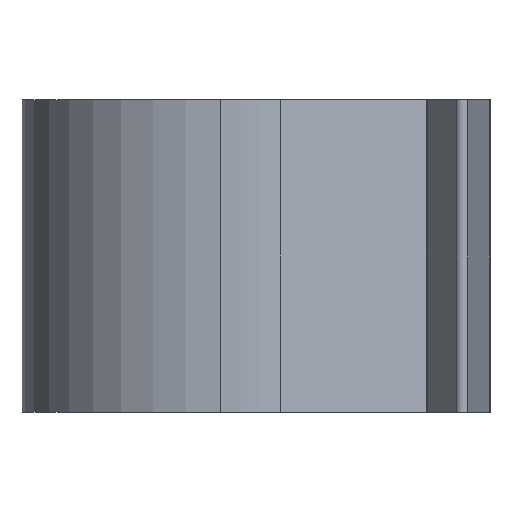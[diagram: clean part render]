
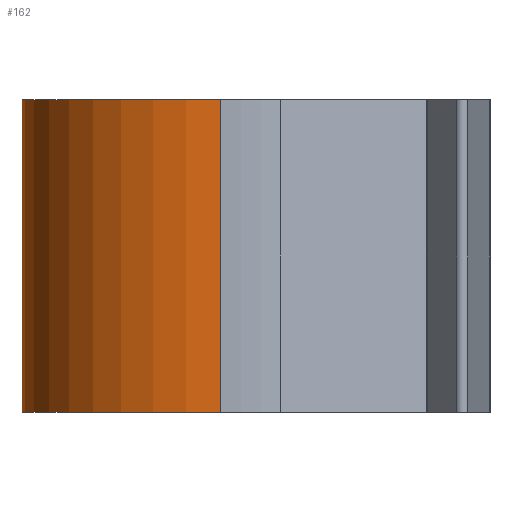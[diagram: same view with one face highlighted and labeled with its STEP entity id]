
A CAD part, left-side view. The second image highlights one B-rep face of the part: STEP entity #162.
In plain terms, the highlighted cylindrical face has radius 6.25 mm (diameter 12.5 mm), a partial arc.
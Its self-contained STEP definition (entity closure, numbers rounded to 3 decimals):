
#43 = VERTEX_POINT ( 'NONE', #799 ) ;
#47 = LINE ( 'NONE', #399, #836 ) ;
#75 = DIRECTION ( 'NONE',  ( 0., 0., 1. ) ) ;
#137 = DIRECTION ( 'NONE',  ( 1., 0., 0. ) ) ;
#162 = ADVANCED_FACE ( 'NONE', ( #891 ), #265, .T. ) ;
#227 = CARTESIAN_POINT ( 'NONE',  ( -6.25, 8.45, -4.9 ) ) ;
#251 = ORIENTED_EDGE ( 'NONE', *, *, #764, .F. ) ;
#265 = CYLINDRICAL_SURFACE ( 'NONE', #460, 6.25 ) ;
#282 = CARTESIAN_POINT ( 'NONE',  ( -6.25, 8.45, 4.9 ) ) ;
#325 = DIRECTION ( 'NONE',  ( 0., 0., -1. ) ) ;
#342 = EDGE_LOOP ( 'NONE', ( #868, #896, #510, #251 ) ) ;
#399 = CARTESIAN_POINT ( 'NONE',  ( -6.25, 8.45, 4.9 ) ) ;
#431 = AXIS2_PLACEMENT_3D ( 'NONE', #545, #75, #616 ) ;
#460 = AXIS2_PLACEMENT_3D ( 'NONE', #530, #890, #137 ) ;
#494 = CARTESIAN_POINT ( 'NONE',  ( 0., 8.45, 4.9 ) ) ;
#510 = ORIENTED_EDGE ( 'NONE', *, *, #925, .T. ) ;
#525 = VECTOR ( 'NONE', #783, 1000. ) ;
#530 = CARTESIAN_POINT ( 'NONE',  ( 0., 8.45, 4.9 ) ) ;
#545 = CARTESIAN_POINT ( 'NONE',  ( 0., 8.45, -4.9 ) ) ;
#554 = AXIS2_PLACEMENT_3D ( 'NONE', #494, #325, #853 ) ;
#569 = VERTEX_POINT ( 'NONE', #282 ) ;
#605 = CIRCLE ( 'NONE', #554, 6.25 ) ;
#616 = DIRECTION ( 'NONE',  ( 1., 0., 0. ) ) ;
#628 = CIRCLE ( 'NONE', #431, 6.25 ) ;
#644 = EDGE_CURVE ( 'NONE', #912, #569, #47, .T. ) ;
#699 = VERTEX_POINT ( 'NONE', #779 ) ;
#764 = EDGE_CURVE ( 'NONE', #699, #43, #940, .T. ) ;
#779 = CARTESIAN_POINT ( 'NONE',  ( 6.25, 8.45, -4.9 ) ) ;
#783 = DIRECTION ( 'NONE',  ( 0., 0., 1. ) ) ;
#799 = CARTESIAN_POINT ( 'NONE',  ( 6.25, 8.45, 4.9 ) ) ;
#836 = VECTOR ( 'NONE', #844, 1000. ) ;
#844 = DIRECTION ( 'NONE',  ( 0., 0., 1. ) ) ;
#853 = DIRECTION ( 'NONE',  ( 1., 0., 0. ) ) ;
#859 = CARTESIAN_POINT ( 'NONE',  ( 6.25, 8.45, 4.9 ) ) ;
#868 = ORIENTED_EDGE ( 'NONE', *, *, #888, .T. ) ;
#888 = EDGE_CURVE ( 'NONE', #699, #912, #628, .T. ) ;
#890 = DIRECTION ( 'NONE',  ( 0., 0., 1. ) ) ;
#891 = FACE_OUTER_BOUND ( 'NONE', #342, .T. ) ;
#896 = ORIENTED_EDGE ( 'NONE', *, *, #644, .T. ) ;
#912 = VERTEX_POINT ( 'NONE', #227 ) ;
#925 = EDGE_CURVE ( 'NONE', #569, #43, #605, .T. ) ;
#940 = LINE ( 'NONE', #859, #525 ) ;
